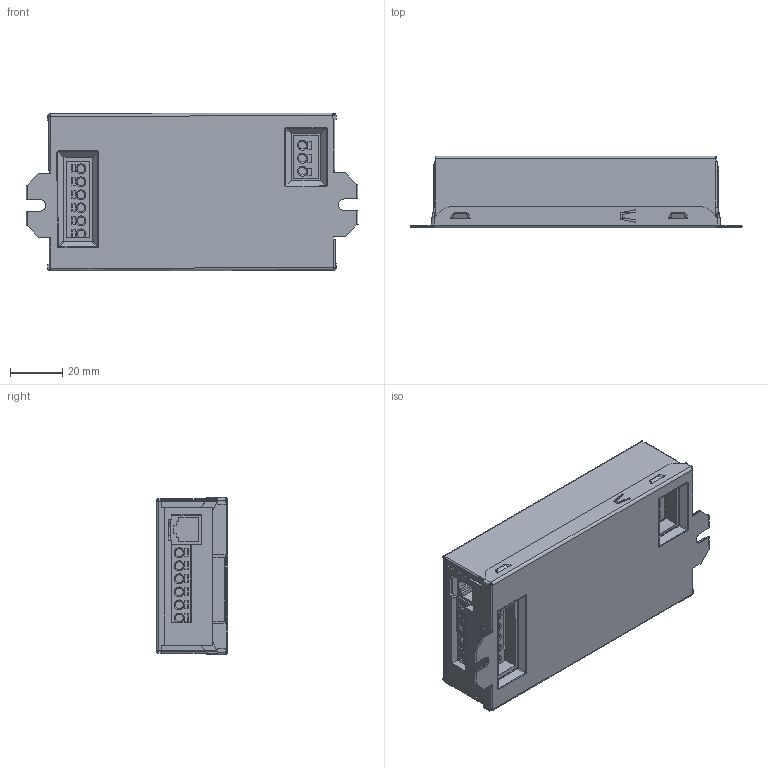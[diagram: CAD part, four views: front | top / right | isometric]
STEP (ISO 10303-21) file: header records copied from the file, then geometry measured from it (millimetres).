
FILE_DESCRIPTION((''),'2;1');
FILE_NAME('G2_CASE_CE_XIA_RJ9_ASM','2025-11-07T14:17:07',('Administrator'),(''),'CREO PARAMETRIC BY PTC INC, 2020053','CREO PARAMETRIC BY PTC INC, 2020053','');
FILE_SCHEMA(('CONFIG_CONTROL_DESIGN','SHAPE_APPEARANCE_LAYERS_GROUPS'));
Products named in the file (9): G2_BOTTOM_CE_RJ9; G2_TOP_CE_RJ9; M3_4MM_LUOZHU; SHUCHUHUTAO_CE_RJ9; SHURUHUTAO_CE_RJ9; 253-106; DUANZI_RJ9; 253-103; G2_CASE_CE_XIA_RJ9_ASM
Assembly tree (10 placements, depth 2):
  G2_CASE_CE_XIA_RJ9_ASM
    G2_BOTTOM_CE_RJ9
    G2_TOP_CE_RJ9
    M3_4MM_LUOZHU  x3
    SHUCHUHUTAO_CE_RJ9
    SHURUHUTAO_CE_RJ9
    253-106
    DUANZI_RJ9
    253-103
Bounding box: 127.33 x 27.5 x 60.53 mm (x, y, z)
Volume: 24819.8 mm3; surface area: 57251.9 mm2
Topology: 10 solids, 10 shells, 979 faces, 2334 edges, 1419 vertices
Faces by surface type: plane 613, cylinder 238, bspline 92, cone 36
Entity records: 41057 total; most frequent: CARTESIAN_POINT 10721, ORIENTED_EDGE 4388, DIRECTION 4115, EDGE_CURVE 2194, PRESENTATION_STYLE_ASSIGNMENT 2162, STYLED_ITEM 2162, VECTOR 1669, LINE 1669
